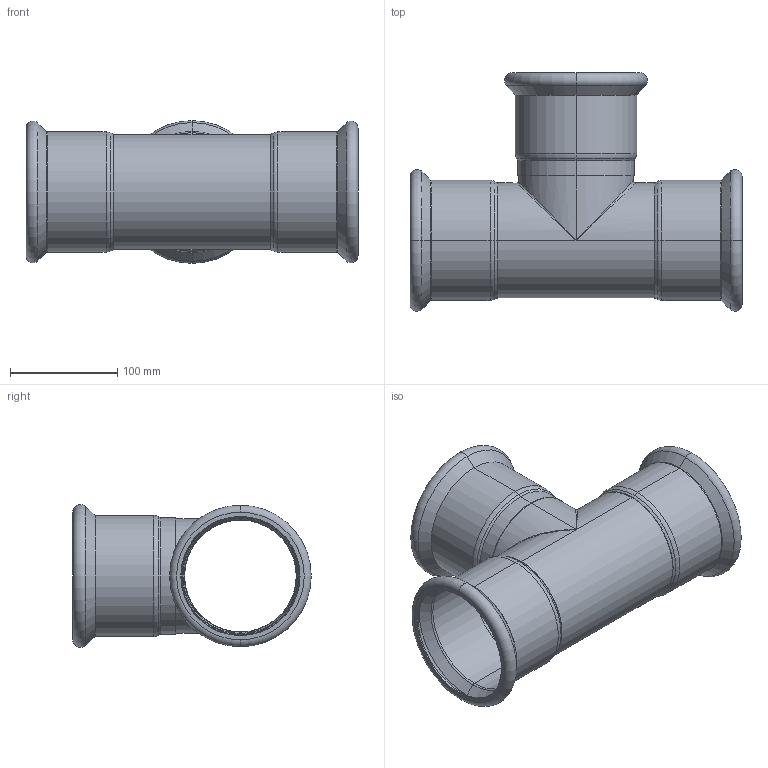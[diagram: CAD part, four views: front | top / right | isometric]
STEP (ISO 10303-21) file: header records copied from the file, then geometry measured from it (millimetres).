
FILE_DESCRIPTION (( 'STEP AP203' ), '1' );
FILE_NAME ('GDA5190.STEP', '2019-01-21T09:42:29', ( '' ), ( '' ), 'SwSTEP 2.0', 'SolidWorks 2015', '' );
FILE_SCHEMA (( 'CONFIG_CONTROL_DESIGN' ));
Length unit declared in the file: millimetre
Products named in the file (3): T-ｉ-01-108; GDA5190; T(R)-¢ñ-108¡Á88.9''
Assembly tree (2 placements, depth 2):
  GDA5190
    T(R)-¢ñ-108¡Á88.9''
    T-ｉ-01-108
Bounding box: 309 x 221.89 x 132.76 mm (x, y, z)
Volume: 248118.8 mm3; surface area: 302715 mm2
Topology: 2 solids, 2 shells, 111 faces, 228 edges, 120 vertices
Faces by surface type: torus 44, cylinder 31, cone 24, plane 8, bspline 4
Entity records: 4355 total; most frequent: CARTESIAN_POINT 1666, DIRECTION 596, ORIENTED_EDGE 448, AXIS2_PLACEMENT_3D 270, EDGE_CURVE 224, CIRCLE 158, EDGE_LOOP 120, VERTEX_POINT 120
